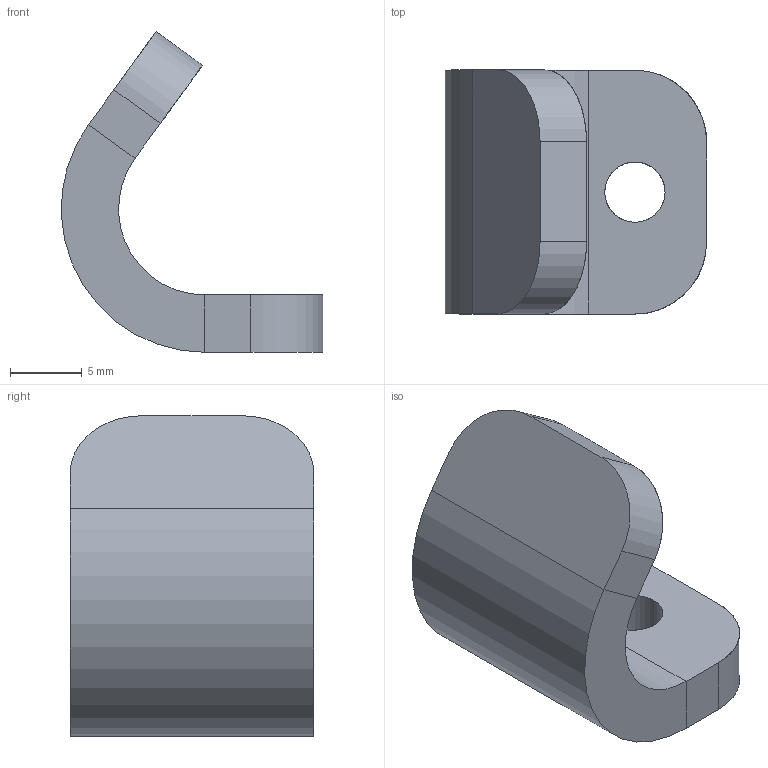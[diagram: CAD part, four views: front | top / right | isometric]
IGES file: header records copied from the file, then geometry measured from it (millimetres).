
Start section: START RECORD GO HERE.
Global section: file name: FR_11018 (Negative Throttle Mechanical Stop).igs; native system: IBM CATIA IGES - CATIA Version 5 Release 19 ; preprocessor: CATIA Version 5 Release 19 ; author: Mathieu Jacquet; organization: MBPRO; date: 20200106.135143; units: millimetre
Bounding box: 18.21 x 17 x 22.35 mm (x, y, z)
Surface area: 1504.2 mm2 (no closed solid volume)
Topology: 0 solids, 0 shells, 20 faces, 92 edges, 92 vertices
Faces by surface type: plane 12, revolution 8
